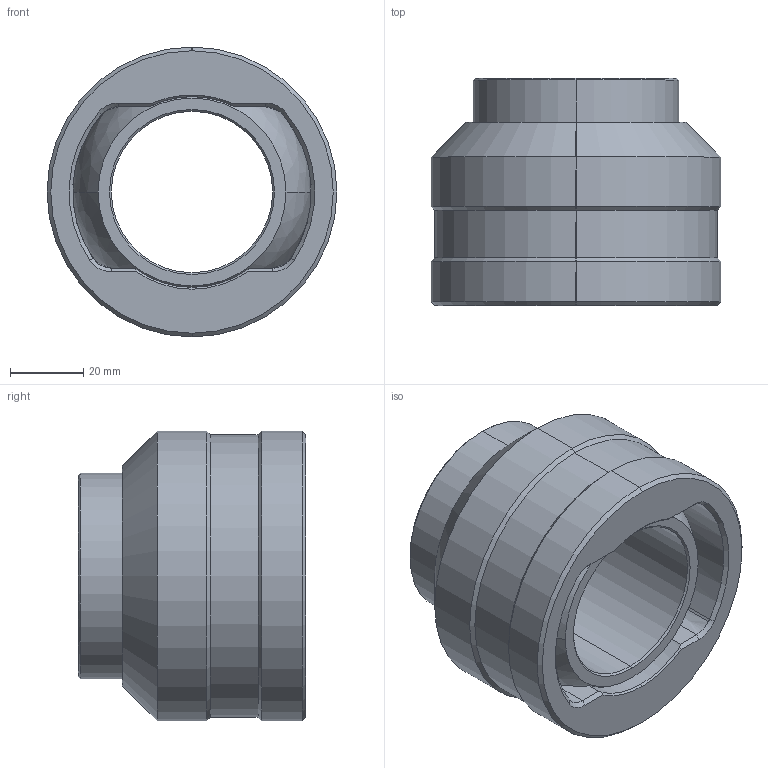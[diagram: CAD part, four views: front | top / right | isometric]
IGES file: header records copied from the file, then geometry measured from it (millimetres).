
Start section: 3D InterOp IGES (Version 20 0 1), Spatial Corp. Copyright (c) 1999-2007.
Global section: file name: 10.11.04.igs; native system: Spatial Corp.; preprocessor: 3D InterOp GENERIC/IGES 3.0; author: Noname; organization: Noname; date: 20111110.163918; units: metre
Bounding box: 79 x 62 x 79 mm (x, y, z)
Surface area: 44399.9 mm2 (no closed solid volume)
Topology: 0 solids, 0 shells, 68 faces, 717 edges, 1116 vertices
Faces by surface type: revolution 55, extrusion 13
